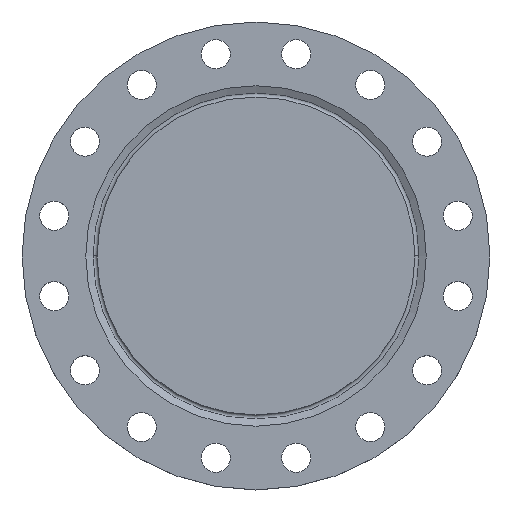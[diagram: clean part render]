
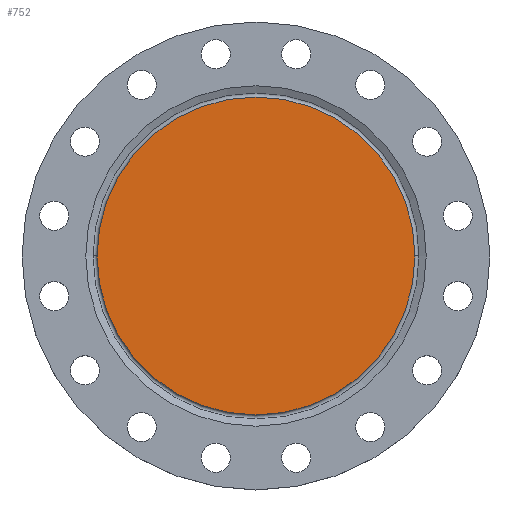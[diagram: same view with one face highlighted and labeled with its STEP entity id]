
A CAD part, top view. The second image highlights one B-rep face of the part: STEP entity #752.
In plain terms, the highlighted planar face has unit normal (0, 0, 1).
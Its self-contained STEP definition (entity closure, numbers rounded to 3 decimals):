
#5 = CIRCLE ( 'NONE', #72, 197. ) ;
#28 = CIRCLE ( 'NONE', #73, 197. ) ;
#72 = AXIS2_PLACEMENT_3D ( 'NONE', #849, #847, #846 ) ;
#73 = AXIS2_PLACEMENT_3D ( 'NONE', #412, #411, #410 ) ;
#119 = AXIS2_PLACEMENT_3D ( 'NONE', #661, #660, #659 ) ;
#156 = CARTESIAN_POINT ( 'NONE',  ( 197., 0., 0. ) ) ;
#183 = CARTESIAN_POINT ( 'NONE',  ( -197., 0., 0. ) ) ;
#240 = EDGE_CURVE ( 'NONE', #1330, #1501, #5, .T. ) ;
#410 = DIRECTION ( 'NONE',  ( -1., 0., 0. ) ) ;
#411 = DIRECTION ( 'NONE',  ( 0., 0., -1. ) ) ;
#412 = CARTESIAN_POINT ( 'NONE',  ( 0., 0., 0. ) ) ;
#659 = DIRECTION ( 'NONE',  ( 1., 0., 0. ) ) ;
#660 = DIRECTION ( 'NONE',  ( 0., 0., 1. ) ) ;
#661 = CARTESIAN_POINT ( 'NONE',  ( 0., 0., 0. ) ) ;
#663 = PLANE ( 'NONE',  #119 ) ;
#664 = FACE_OUTER_BOUND ( 'NONE', #1496, .T. ) ;
#752 = ADVANCED_FACE ( 'NONE', ( #664 ), #663, .T. ) ;
#846 = DIRECTION ( 'NONE',  ( -1., 0., 0. ) ) ;
#847 = DIRECTION ( 'NONE',  ( 0., 0., -1. ) ) ;
#849 = CARTESIAN_POINT ( 'NONE',  ( 0., 0., 0. ) ) ;
#1126 = EDGE_CURVE ( 'NONE', #1501, #1330, #28, .T. ) ;
#1330 = VERTEX_POINT ( 'NONE', #183 ) ;
#1410 = ORIENTED_EDGE ( 'NONE', *, *, #240, .F. ) ;
#1413 = ORIENTED_EDGE ( 'NONE', *, *, #1126, .F. ) ;
#1496 = EDGE_LOOP ( 'NONE', ( #1410, #1413 ) ) ;
#1501 = VERTEX_POINT ( 'NONE', #156 ) ;
